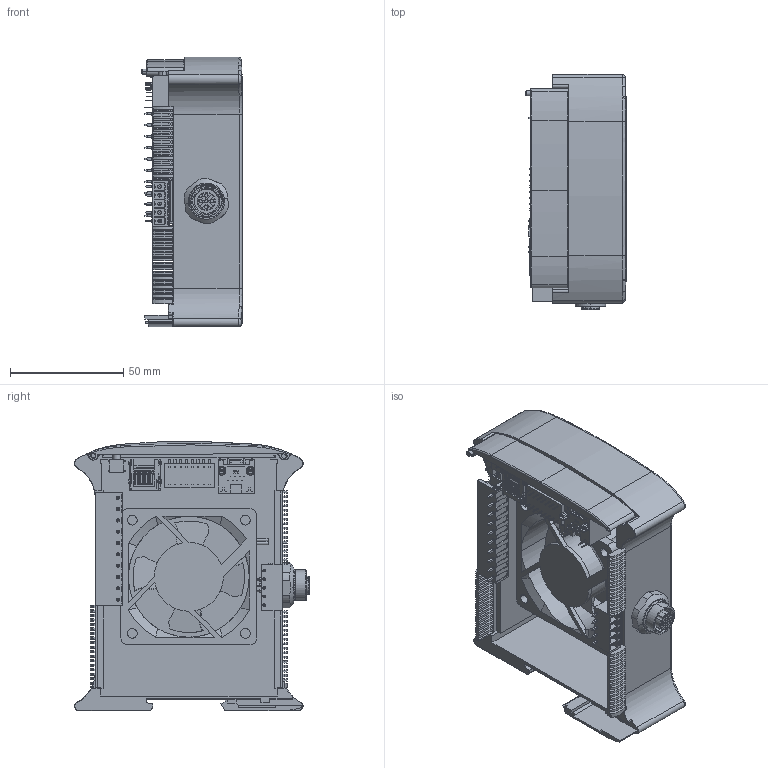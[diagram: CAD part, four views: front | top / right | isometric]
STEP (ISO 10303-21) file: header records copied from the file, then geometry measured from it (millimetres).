
FILE_DESCRIPTION (( 'STEP AP214' ), '1' );
FILE_NAME ('4ZMD.STEP', '2019-09-26T12:53:15', ( '' ), ( '' ), 'SwSTEP 2.0', 'SolidWorks 2019', '' );
FILE_SCHEMA (( 'AUTOMOTIVE_DESIGN' ));
Length unit declared in the file: millimetre
Products named in the file (33): Assem1_NAUO1;693072010801; M12 Nut; Assem1_NAUO8;693072010801_PIN; Assem1_NAUO7;693072010801_PIN; Assem1_NAUO11;693072010801_PIN; Assem1_NAUO15;693072010801_CACHE; PCB ASM; Assem1_NAUO4;693072010801_PATTE; Assem1_NAUO9;693072010801_PIN; 2410sb-bxx_Vychoz｡; 8 Pin Dip Switch; 4ZMD; Ribbing_4QMD_LEFT; Momentary Switch; Ribbing_36.5mm; PORTELLINO_22_5; COPERCHIO_32_5_MM_4WMD; Assem1_NAUO3;693072010801_PATTE; Assem1_NAUO13;693072010801_PIN; BASE_12_5_MM; SD Micro Header; 1803358; mstb_2.5-10-g; M-RJHSE-X08X-REVT1; M12_Female; Assem1_NAUO2;693072010801_PATTE; Assem1_NAUO12;693072010801_PIN; Assem1_NAUO5;693072010801_PATTE; Assem1_NAUO6;693072010801_PATTE_SPE; Ribbing_4QMD; AGGANCIO_RAILBOX; Assem1_NAUO10;693072010801_PIN; Assem1_NAUO14;693072010801_PIN
Assembly tree (32 placements, depth 4):
  4ZMD
    AGGANCIO_RAILBOX
    BASE_12_5_MM
    COPERCHIO_32_5_MM_4WMD
    PORTELLINO_22_5
    M12 Nut
    PCB ASM
      M-RJHSE-X08X-REVT1
      SD Micro Header
        Assem1_NAUO1;693072010801
        Assem1_NAUO2;693072010801_PATTE
        Assem1_NAUO3;693072010801_PATTE
        Assem1_NAUO4;693072010801_PATTE
        Assem1_NAUO5;693072010801_PATTE
        Assem1_NAUO6;693072010801_PATTE_SPE
        Assem1_NAUO7;693072010801_PIN
        Assem1_NAUO8;693072010801_PIN
        Assem1_NAUO9;693072010801_PIN
        Assem1_NAUO10;693072010801_PIN
        Assem1_NAUO11;693072010801_PIN
        Assem1_NAUO12;693072010801_PIN
        Assem1_NAUO13;693072010801_PIN
        Assem1_NAUO14;693072010801_PIN
        Assem1_NAUO15;693072010801_CACHE
      8 Pin Dip Switch
      Momentary Switch
    Ribbing_4QMD
    Ribbing_36.5mm
    mstb_2.5-10-g
    1803358
    M12_Female
    Ribbing_4QMD_LEFT
    2410sb-bxx_Vychoz｡
Bounding box: 44.2 x 103.8 x 119.08 mm (x, y, z)
Volume: 121118.9 mm3; surface area: 87254.7 mm2
Topology: 35 solids, 36 shells, 4076 faces, 10837 edges, 6949 vertices
Faces by surface type: plane 2594, cylinder 1103, bspline 289, cone 77, torus 13
Entity records: 180165 total; most frequent: CARTESIAN_POINT 59578, ORIENTED_EDGE 23066, DIRECTION 20028, EDGE_CURVE 11533, LINE 7892, VECTOR 7892, VERTEX_POINT 7405, AXIS2_PLACEMENT_3D 6068
